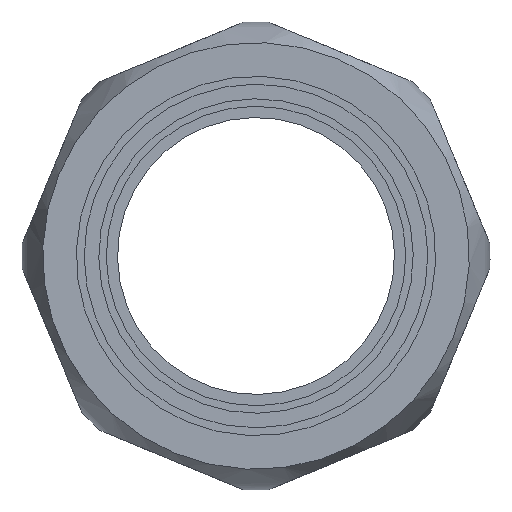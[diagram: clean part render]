
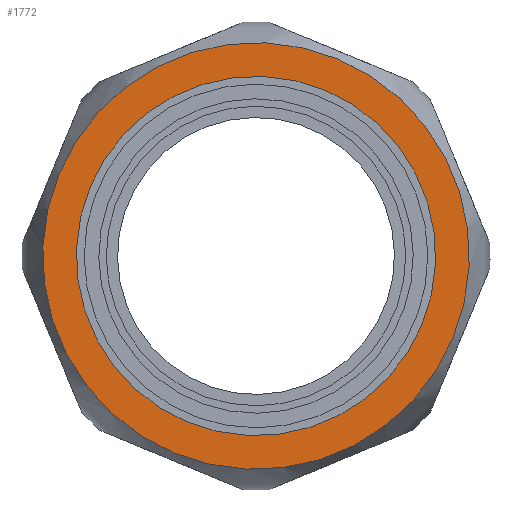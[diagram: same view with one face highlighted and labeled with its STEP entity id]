
A CAD part, left-side view. The second image highlights one B-rep face of the part: STEP entity #1772.
In plain terms, the highlighted planar face has unit normal (-1, 0, 0) as drawn and (1, 0, 0) by its records, which use the part's own axes.
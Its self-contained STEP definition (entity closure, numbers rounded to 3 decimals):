
#1738=CARTESIAN_POINT('',(22.0,28.5,0.0));
#1739=VERTEX_POINT('',#1738);
#1740=CARTESIAN_POINT('',(22.0,0.0,0.0));
#1741=DIRECTION('',(1.0,0.0,0.0));
#1742=DIRECTION('',(0.0,1.0,0.0));
#1743=AXIS2_PLACEMENT_3D('',#1740,#1741,#1742);
#1744=CIRCLE('',#1743,28.5);
#1745=EDGE_CURVE('',#1739,#1739,#1744,.T.);
#1753=CARTESIAN_POINT('',(22.0,26.25,0.0));
#1754=DIRECTION('',(1.0,0.0,0.0));
#1755=DIRECTION('',(0.0,0.0,-1.0));
#1756=AXIS2_PLACEMENT_3D('',#1753,#1754,#1755);
#1757=PLANE('',#1756);
#1758=ORIENTED_EDGE('',*,*,#1745,.T.);
#1759=EDGE_LOOP('',(#1758));
#1760=FACE_OUTER_BOUND('',#1759,.T.);
#1761=CARTESIAN_POINT('',(22.0,24.,0.0));
#1762=VERTEX_POINT('',#1761);
#1763=CARTESIAN_POINT('',(22.0,0.0,0.0));
#1764=DIRECTION('',(1.0,0.0,0.0));
#1765=DIRECTION('',(0.0,1.0,0.0));
#1766=AXIS2_PLACEMENT_3D('',#1763,#1764,#1765);
#1767=CIRCLE('',#1766,24.);
#1768=EDGE_CURVE('',#1762,#1762,#1767,.T.);
#1769=ORIENTED_EDGE('',*,*,#1768,.F.);
#1770=EDGE_LOOP('',(#1769));
#1771=FACE_BOUND('',#1770,.T.);
#1772=ADVANCED_FACE('',(#1760,#1771),#1757,.T.);
